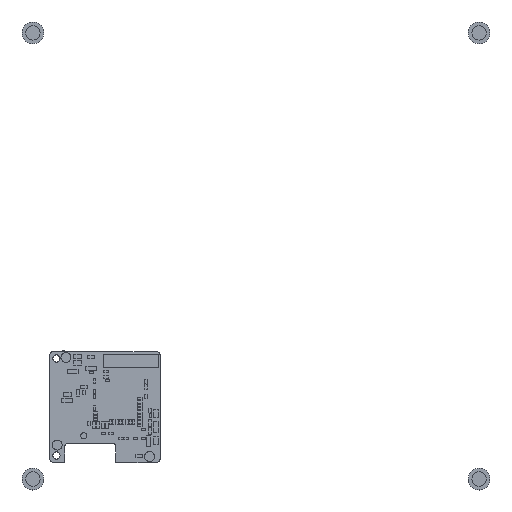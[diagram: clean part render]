
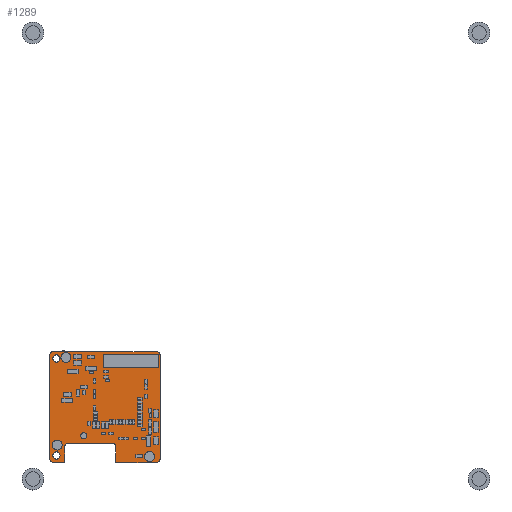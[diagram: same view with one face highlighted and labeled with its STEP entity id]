
A CAD part, top view. The second image highlights one B-rep face of the part: STEP entity #1289.
In plain terms, the highlighted planar face has unit normal (0, 0, 1).
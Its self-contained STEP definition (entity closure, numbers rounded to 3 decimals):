
#961=FACE_OUTER_BOUND($,#1079,.F.);
#977=FACE_OUTER_BOUND($,#1095,.T.);
#981=FACE_OUTER_BOUND($,#1099,.T.);
#985=FACE_OUTER_BOUND($,#1103,.T.);
#1079=EDGE_LOOP($,(#1817,#1818,#1819,#1820,#1821,#1822,#1823,#1824,#1825,
#1826,#1827,#1828,#1829,#1830));
#1095=EDGE_LOOP($,(#1901,#1902));
#1099=EDGE_LOOP($,(#1913,#1914));
#1103=EDGE_LOOP($,(#1925,#1926));
#1197=PLANE($,#1447);
#1289=ADVANCED_FACE($,(#961,#977,#981,#985),#1197,.T.);
#1401=CIRCLE($,#1441,0.886);
#1402=CIRCLE($,#1442,0.933);
#1403=CIRCLE($,#1443,0.756);
#1404=CIRCLE($,#1444,0.756);
#1405=CIRCLE($,#1445,0.889);
#1406=CIRCLE($,#1446,0.891);
#1413=CIRCLE($,#1469,0.826);
#1414=CIRCLE($,#1470,0.826);
#1417=CIRCLE($,#1475,0.826);
#1418=CIRCLE($,#1476,0.826);
#1421=CIRCLE($,#1481,0.254);
#1422=CIRCLE($,#1482,0.254);
#1441=AXIS2_PLACEMENT_3D($,#3945,#3427,$);
#1442=AXIS2_PLACEMENT_3D($,#3946,#3427,$);
#1443=AXIS2_PLACEMENT_3D($,#3947,#3427,$);
#1444=AXIS2_PLACEMENT_3D($,#3948,#3427,$);
#1445=AXIS2_PLACEMENT_3D($,#3949,#3427,$);
#1446=AXIS2_PLACEMENT_3D($,#3950,#3427,$);
#1447=AXIS2_PLACEMENT_3D($,#3931,#3427,$);
#1469=AXIS2_PLACEMENT_3D($,#3981,#3427,$);
#1470=AXIS2_PLACEMENT_3D($,#3982,#3427,$);
#1475=AXIS2_PLACEMENT_3D($,#3993,#3427,$);
#1476=AXIS2_PLACEMENT_3D($,#3994,#3427,$);
#1481=AXIS2_PLACEMENT_3D($,#4005,#3427,$);
#1482=AXIS2_PLACEMENT_3D($,#4006,#3427,$);
#1817=ORIENTED_EDGE($,*,*,#2297,.T.);
#1818=ORIENTED_EDGE($,*,*,#2298,.T.);
#1819=ORIENTED_EDGE($,*,*,#2299,.T.);
#1820=ORIENTED_EDGE($,*,*,#2300,.T.);
#1821=ORIENTED_EDGE($,*,*,#2301,.T.);
#1822=ORIENTED_EDGE($,*,*,#2302,.T.);
#1823=ORIENTED_EDGE($,*,*,#2303,.T.);
#1824=ORIENTED_EDGE($,*,*,#2304,.T.);
#1825=ORIENTED_EDGE($,*,*,#2305,.T.);
#1826=ORIENTED_EDGE($,*,*,#2306,.T.);
#1827=ORIENTED_EDGE($,*,*,#2307,.T.);
#1828=ORIENTED_EDGE($,*,*,#2308,.T.);
#1829=ORIENTED_EDGE($,*,*,#2309,.T.);
#1830=ORIENTED_EDGE($,*,*,#2310,.T.);
#1901=ORIENTED_EDGE($,*,*,#2340,.T.);
#1902=ORIENTED_EDGE($,*,*,#2341,.T.);
#1913=ORIENTED_EDGE($,*,*,#2347,.T.);
#1914=ORIENTED_EDGE($,*,*,#2348,.T.);
#1925=ORIENTED_EDGE($,*,*,#2354,.T.);
#1926=ORIENTED_EDGE($,*,*,#2355,.T.);
#2297=EDGE_CURVE($,#2994,#2995,#2775,.T.);
#2298=EDGE_CURVE($,#2995,#2996,#1401,.F.);
#2299=EDGE_CURVE($,#2996,#2997,#2776,.T.);
#2300=EDGE_CURVE($,#2997,#2998,#1402,.F.);
#2301=EDGE_CURVE($,#2998,#2999,#2777,.T.);
#2302=EDGE_CURVE($,#2999,#3000,#2778,.T.);
#2303=EDGE_CURVE($,#3000,#3001,#1403,.T.);
#2304=EDGE_CURVE($,#3001,#3002,#2779,.T.);
#2305=EDGE_CURVE($,#3002,#3003,#1404,.T.);
#2306=EDGE_CURVE($,#3003,#3004,#2780,.T.);
#2307=EDGE_CURVE($,#3004,#3005,#2781,.T.);
#2308=EDGE_CURVE($,#3005,#3006,#1405,.F.);
#2309=EDGE_CURVE($,#3006,#3007,#2782,.T.);
#2310=EDGE_CURVE($,#3007,#2994,#1406,.F.);
#2340=EDGE_CURVE($,#3024,#3025,#1413,.F.);
#2341=EDGE_CURVE($,#3025,#3024,#1414,.F.);
#2347=EDGE_CURVE($,#3030,#3031,#1417,.F.);
#2348=EDGE_CURVE($,#3031,#3030,#1418,.F.);
#2354=EDGE_CURVE($,#3036,#3037,#1421,.F.);
#2355=EDGE_CURVE($,#3037,#3036,#1422,.F.);
#2556=VECTOR($,#3430,23.597);
#2557=VECTOR($,#3431,23.647);
#2558=VECTOR($,#3432,9.271);
#2559=VECTOR($,#3433,3.627);
#2560=VECTOR($,#3434,10.16);
#2561=VECTOR($,#3435,3.621);
#2562=VECTOR($,#3436,2.609);
#2563=VECTOR($,#3437,23.651);
#2775=LINE($,#3930,#2556);
#2776=LINE($,#3932,#2557);
#2777=LINE($,#3934,#2558);
#2778=LINE($,#3935,#2559);
#2779=LINE($,#3937,#2560);
#2780=LINE($,#3939,#2561);
#2781=LINE($,#3940,#2562);
#2782=LINE($,#3942,#2563);
#2994=VERTEX_POINT($,#3930);
#2995=VERTEX_POINT($,#3931);
#2996=VERTEX_POINT($,#3932);
#2997=VERTEX_POINT($,#3933);
#2998=VERTEX_POINT($,#3934);
#2999=VERTEX_POINT($,#3935);
#3000=VERTEX_POINT($,#3936);
#3001=VERTEX_POINT($,#3937);
#3002=VERTEX_POINT($,#3938);
#3003=VERTEX_POINT($,#3939);
#3004=VERTEX_POINT($,#3940);
#3005=VERTEX_POINT($,#3941);
#3006=VERTEX_POINT($,#3942);
#3007=VERTEX_POINT($,#3943);
#3024=VERTEX_POINT($,#3978);
#3025=VERTEX_POINT($,#3979);
#3030=VERTEX_POINT($,#3990);
#3031=VERTEX_POINT($,#3991);
#3036=VERTEX_POINT($,#4002);
#3037=VERTEX_POINT($,#4003);
#3427=DIRECTION($,(0.,0.,1.));
#3430=DIRECTION($,(1.,0.,0.));
#3431=DIRECTION($,(0.,-1.,0.));
#3432=DIRECTION($,(-1.,0.001,0.));
#3433=DIRECTION($,(0.,1.,0.));
#3434=DIRECTION($,(-1.,0.,0.));
#3435=DIRECTION($,(0.,-1.,0.));
#3436=DIRECTION($,(-1.,0.001,0.));
#3437=DIRECTION($,(0.,1.,0.));
#3930=CARTESIAN_POINT('',(0.851,25.4,0.));
#3931=CARTESIAN_POINT('',(24.448,25.4,0.));
#3932=CARTESIAN_POINT('',(25.337,24.524,0.));
#3933=CARTESIAN_POINT('',(25.337,0.876,0.));
#3934=CARTESIAN_POINT('',(24.448,-0.013,0.));
#3935=CARTESIAN_POINT('',(15.177,-0.008,0.));
#3936=CARTESIAN_POINT('',(15.177,3.62,0.));
#3937=CARTESIAN_POINT('',(14.415,4.382,0.));
#3938=CARTESIAN_POINT('',(4.255,4.382,0.));
#3939=CARTESIAN_POINT('',(3.493,3.62,0.));
#3940=CARTESIAN_POINT('',(3.493,-0.002,0.));
#3941=CARTESIAN_POINT('',(0.883,0.,0.));
#3942=CARTESIAN_POINT('',(0.,0.879,0.));
#3943=CARTESIAN_POINT('',(0.,24.53,0.));
#3945=CARTESIAN_POINT('',(24.45,24.514,0.));
#3946=CARTESIAN_POINT('',(24.404,0.919,0.));
#3947=CARTESIAN_POINT('',(14.42,3.625,0.));
#3948=CARTESIAN_POINT('',(4.249,3.625,0.));
#3949=CARTESIAN_POINT('',(0.889,0.889,0.));
#3950=CARTESIAN_POINT('',(0.891,24.51,0.));
#3978=CARTESIAN_POINT('',(2.413,23.813,0.));
#3979=CARTESIAN_POINT('',(0.762,23.813,0.));
#3981=CARTESIAN_POINT('',(1.588,23.813,0.));
#3982=CARTESIAN_POINT('',(1.588,23.813,0.));
#3990=CARTESIAN_POINT('',(2.413,1.588,0.));
#3991=CARTESIAN_POINT('',(0.762,1.588,0.));
#3993=CARTESIAN_POINT('',(1.588,1.588,0.));
#3994=CARTESIAN_POINT('',(1.588,1.588,0.));
#4002=CARTESIAN_POINT('',(8.128,6.096,0.));
#4003=CARTESIAN_POINT('',(7.62,6.096,0.));
#4005=CARTESIAN_POINT('',(7.874,6.096,0.));
#4006=CARTESIAN_POINT('',(7.874,6.096,0.));
